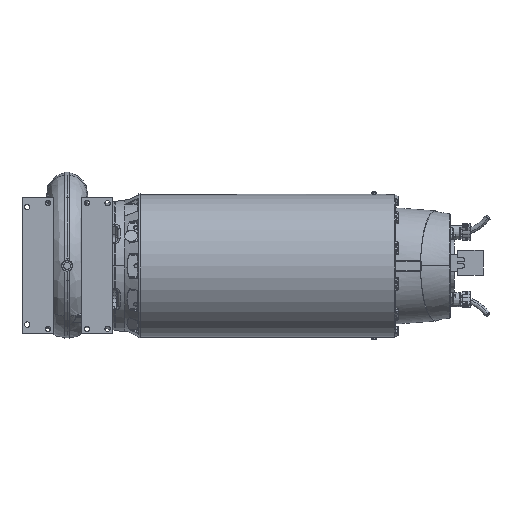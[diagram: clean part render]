
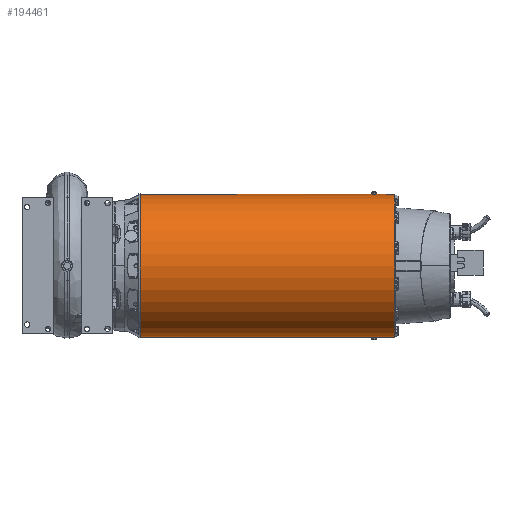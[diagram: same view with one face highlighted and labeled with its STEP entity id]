
A CAD part, front view. The second image highlights one B-rep face of the part: STEP entity #194461.
In plain terms, the highlighted cylindrical face has radius 344 mm (diameter 688 mm), a partial arc.
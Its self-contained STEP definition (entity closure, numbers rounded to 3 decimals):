
#2474 = DIRECTION ( 'NONE',  ( 1., 0., 0. ) ) ;
#2595 = ORIENTED_EDGE ( 'NONE', *, *, #192793, .F. ) ;
#3012 = DIRECTION ( 'NONE',  ( 1., 0., 0. ) ) ;
#3499 = EDGE_CURVE ( 'NONE', #190972, #10352, #186692, .T. ) ;
#3835 = LINE ( 'NONE', #186935, #177440 ) ;
#5901 = LINE ( 'NONE', #116514, #129687 ) ;
#8440 = ORIENTED_EDGE ( 'NONE', *, *, #64313, .T. ) ;
#9601 = VERTEX_POINT ( 'NONE', #152428 ) ;
#10352 = VERTEX_POINT ( 'NONE', #146871 ) ;
#10599 = CARTESIAN_POINT ( 'NONE',  ( 1114.141, -3.167, 344. ) ) ;
#14649 = VERTEX_POINT ( 'NONE', #198606 ) ;
#15180 = ORIENTED_EDGE ( 'NONE', *, *, #51560, .F. ) ;
#20729 = CARTESIAN_POINT ( 'NONE',  ( 1345.349, 0., 344. ) ) ;
#21793 = ORIENTED_EDGE ( 'NONE', *, *, #68851, .F. ) ;
#22417 = VERTEX_POINT ( 'NONE', #198282 ) ;
#23116 = VERTEX_POINT ( 'NONE', #160016 ) ;
#23166 = DIRECTION ( 'NONE',  ( -1., 0., 0. ) ) ;
#24516 = AXIS2_PLACEMENT_3D ( 'NONE', #100003, #217106, #116823 ) ;
#27268 = CARTESIAN_POINT ( 'NONE',  ( 1095.859, -3.167, -344. ) ) ;
#28369 = ORIENTED_EDGE ( 'NONE', *, *, #3499, .T. ) ;
#34640 = ORIENTED_EDGE ( 'NONE', *, *, #196360, .T. ) ;
#34762 = VERTEX_POINT ( 'NONE', #39225 ) ;
#35411 = CARTESIAN_POINT ( 'NONE',  ( 1097.687, -6.334, 343.956 ) ) ;
#35719 = VERTEX_POINT ( 'NONE', #106339 ) ;
#39225 = CARTESIAN_POINT ( 'NONE',  ( 1205., 0., -344. ) ) ;
#40164 = CARTESIAN_POINT ( 'NONE',  ( 1110.485, -9.5, -343.869 ) ) ;
#40975 = ORIENTED_EDGE ( 'NONE', *, *, #189245, .T. ) ;
#41492 = LINE ( 'NONE', #197056, #130816 ) ;
#42956 = FACE_OUTER_BOUND ( 'NONE', #197297, .T. ) ;
#49709 = VECTOR ( 'NONE', #23166, 1000. ) ;
#51560 = EDGE_CURVE ( 'NONE', #14649, #34762, #205361, .T. ) ;
#54346 = VERTEX_POINT ( 'NONE', #102416 ) ;
#54947 = VECTOR ( 'NONE', #72685, 1000. ) ;
#57297 = CARTESIAN_POINT ( 'NONE',  ( 1345.349, -9.5, -343.869 ) ) ;
#63474 = EDGE_CURVE ( 'NONE', #22417, #54346, #70159, .T. ) ;
#63979 = VERTEX_POINT ( 'NONE', #72213 ) ;
#64313 = EDGE_CURVE ( 'NONE', #124883, #34762, #3835, .T. ) ;
#66639 = CYLINDRICAL_SURFACE ( 'NONE', #173417, 344. ) ;
#68376 = LINE ( 'NONE', #20729, #157501 ) ;
#68851 = EDGE_CURVE ( 'NONE', #190972, #14649, #68376, .T. ) ;
#70159 =( BOUNDED_CURVE ( )  B_SPLINE_CURVE ( 3, ( #111246, #128042, #27268, #144872 ),
 .UNSPECIFIED., .F., .F. ) 
 B_SPLINE_CURVE_WITH_KNOTS ( ( 4, 4 ),
 ( 1.543, 1.571 ),
 .UNSPECIFIED. ) 
 CURVE ( )  GEOMETRIC_REPRESENTATION_ITEM ( )  RATIONAL_B_SPLINE_CURVE ( ( 1., 1., 1., 1. ) ) 
 REPRESENTATION_ITEM ( '' )  );
#72213 = CARTESIAN_POINT ( 'NONE',  ( -20., 0., -344. ) ) ;
#72685 = DIRECTION ( 'NONE',  ( 1., 0., 0. ) ) ;
#79026 = CARTESIAN_POINT ( 'NONE',  ( 1115.97, 0., -344. ) ) ;
#86365 = CARTESIAN_POINT ( 'NONE',  ( 1094.03, 0., 344. ) ) ;
#92168 = ORIENTED_EDGE ( 'NONE', *, *, #146170, .F. ) ;
#93133 =( BOUNDED_CURVE ( )  B_SPLINE_CURVE ( 3, ( #152917, #35411, #186543, #86365 ),
 .UNSPECIFIED., .F., .F. ) 
 B_SPLINE_CURVE_WITH_KNOTS ( ( 4, 4 ),
 ( 1.543, 1.571 ),
 .UNSPECIFIED. ) 
 CURVE ( )  GEOMETRIC_REPRESENTATION_ITEM ( )  RATIONAL_B_SPLINE_CURVE ( ( 1., 1., 1., 1. ) ) 
 REPRESENTATION_ITEM ( '' )  );
#93944 = CARTESIAN_POINT ( 'NONE',  ( -20., 0., 0. ) ) ;
#96783 = DIRECTION ( 'NONE',  ( -1., 0., 0. ) ) ;
#100003 = CARTESIAN_POINT ( 'NONE',  ( 1205., 0., 0. ) ) ;
#101485 = CARTESIAN_POINT ( 'NONE',  ( 1115.97, 0., -344. ) ) ;
#102416 = CARTESIAN_POINT ( 'NONE',  ( 1094.03, 0., -344. ) ) ;
#102849 = ORIENTED_EDGE ( 'NONE', *, *, #63474, .F. ) ;
#103665 = CARTESIAN_POINT ( 'NONE',  ( 1345.349, 0., 0. ) ) ;
#106339 = CARTESIAN_POINT ( 'NONE',  ( 1099.515, -9.5, 343.869 ) ) ;
#110789 = DIRECTION ( 'NONE',  ( 0., 0., -1. ) ) ;
#111186 =( BOUNDED_CURVE ( )  B_SPLINE_CURVE ( 3, ( #79026, #196139, #212940, #112707 ),
 .UNSPECIFIED., .F., .F. ) 
 B_SPLINE_CURVE_WITH_KNOTS ( ( 4, 4 ),
 ( 1.571, 1.598 ),
 .UNSPECIFIED. ) 
 CURVE ( )  GEOMETRIC_REPRESENTATION_ITEM ( )  RATIONAL_B_SPLINE_CURVE ( ( 1., 1., 1., 1. ) ) 
 REPRESENTATION_ITEM ( '' )  );
#111246 = CARTESIAN_POINT ( 'NONE',  ( 1099.515, -9.5, -343.869 ) ) ;
#111263 = AXIS2_PLACEMENT_3D ( 'NONE', #93944, #211011, #110789 ) ;
#112707 = CARTESIAN_POINT ( 'NONE',  ( 1110.485, -9.5, -343.869 ) ) ;
#116514 = CARTESIAN_POINT ( 'NONE',  ( 1345.349, 0., 344. ) ) ;
#116823 = DIRECTION ( 'NONE',  ( 0., 0., -1. ) ) ;
#120480 = DIRECTION ( 'NONE',  ( 1., 0., 0. ) ) ;
#123627 = ORIENTED_EDGE ( 'NONE', *, *, #204907, .T. ) ;
#124883 = VERTEX_POINT ( 'NONE', #101485 ) ;
#128042 = CARTESIAN_POINT ( 'NONE',  ( 1097.687, -6.334, -343.956 ) ) ;
#129687 = VECTOR ( 'NONE', #166935, 1000. ) ;
#130816 = VECTOR ( 'NONE', #96783, 1000. ) ;
#138885 = LINE ( 'NONE', #156106, #54947 ) ;
#138924 = ORIENTED_EDGE ( 'NONE', *, *, #157528, .F. ) ;
#139756 = CARTESIAN_POINT ( 'NONE',  ( 1115.97, 0., 344. ) ) ;
#140861 = CARTESIAN_POINT ( 'NONE',  ( 1110.485, -9.5, 343.869 ) ) ;
#144872 = CARTESIAN_POINT ( 'NONE',  ( 1094.03, 0., -344. ) ) ;
#146170 = EDGE_CURVE ( 'NONE', #23116, #9601, #5901, .T. ) ;
#146645 = CARTESIAN_POINT ( 'NONE',  ( 1115.97, 0., 344. ) ) ;
#146871 = CARTESIAN_POINT ( 'NONE',  ( 1110.485, -9.5, 343.869 ) ) ;
#148104 = CARTESIAN_POINT ( 'NONE',  ( 1112.313, -6.334, 343.956 ) ) ;
#152428 = CARTESIAN_POINT ( 'NONE',  ( 1094.03, 0., 344. ) ) ;
#152917 = CARTESIAN_POINT ( 'NONE',  ( 1099.515, -9.5, 343.869 ) ) ;
#155133 = ORIENTED_EDGE ( 'NONE', *, *, #190412, .T. ) ;
#156106 = CARTESIAN_POINT ( 'NONE',  ( 1345.349, 0., -344. ) ) ;
#157501 = VECTOR ( 'NONE', #3012, 1000. ) ;
#157528 = EDGE_CURVE ( 'NONE', #183051, #22417, #183466, .T. ) ;
#160016 = CARTESIAN_POINT ( 'NONE',  ( -20., 0., 344. ) ) ;
#166935 = DIRECTION ( 'NONE',  ( 1., 0., 0. ) ) ;
#173417 = AXIS2_PLACEMENT_3D ( 'NONE', #103665, #120480, #187781 ) ;
#177440 = VECTOR ( 'NONE', #2474, 1000. ) ;
#181292 = CIRCLE ( 'NONE', #111263, 344. ) ;
#183051 = VERTEX_POINT ( 'NONE', #40164 ) ;
#183466 = LINE ( 'NONE', #57297, #49709 ) ;
#186543 = CARTESIAN_POINT ( 'NONE',  ( 1095.859, -3.167, 344. ) ) ;
#186692 =( BOUNDED_CURVE ( )  B_SPLINE_CURVE ( 3, ( #146645, #10599, #148104, #140861 ),
 .UNSPECIFIED., .F., .F. ) 
 B_SPLINE_CURVE_WITH_KNOTS ( ( 4, 4 ),
 ( 1.571, 1.598 ),
 .UNSPECIFIED. ) 
 CURVE ( )  GEOMETRIC_REPRESENTATION_ITEM ( )  RATIONAL_B_SPLINE_CURVE ( ( 1., 1., 1., 1. ) ) 
 REPRESENTATION_ITEM ( '' )  );
#186935 = CARTESIAN_POINT ( 'NONE',  ( 1345.349, 0., -344. ) ) ;
#187781 = DIRECTION ( 'NONE',  ( 0., 0., -1. ) ) ;
#189245 = EDGE_CURVE ( 'NONE', #35719, #9601, #93133, .T. ) ;
#190412 = EDGE_CURVE ( 'NONE', #63979, #54346, #138885, .T. ) ;
#190972 = VERTEX_POINT ( 'NONE', #139756 ) ;
#192793 = EDGE_CURVE ( 'NONE', #124883, #183051, #111186, .T. ) ;
#194461 = ADVANCED_FACE ( 'NONE', ( #42956 ), #66639, .T. ) ;
#196139 = CARTESIAN_POINT ( 'NONE',  ( 1114.141, -3.167, -344. ) ) ;
#196360 = EDGE_CURVE ( 'NONE', #10352, #35719, #41492, .T. ) ;
#197056 = CARTESIAN_POINT ( 'NONE',  ( 1345.349, -9.5, 343.869 ) ) ;
#197297 = EDGE_LOOP ( 'NONE', ( #92168, #123627, #155133, #102849, #138924, #2595, #8440, #15180, #21793, #28369, #34640, #40975 ) ) ;
#198282 = CARTESIAN_POINT ( 'NONE',  ( 1099.515, -9.5, -343.869 ) ) ;
#198606 = CARTESIAN_POINT ( 'NONE',  ( 1205., 0., 344. ) ) ;
#204907 = EDGE_CURVE ( 'NONE', #23116, #63979, #181292, .T. ) ;
#205361 = CIRCLE ( 'NONE', #24516, 344. ) ;
#211011 = DIRECTION ( 'NONE',  ( 1., 0., 0. ) ) ;
#212940 = CARTESIAN_POINT ( 'NONE',  ( 1112.313, -6.334, -343.956 ) ) ;
#217106 = DIRECTION ( 'NONE',  ( 1., 0., 0. ) ) ;
